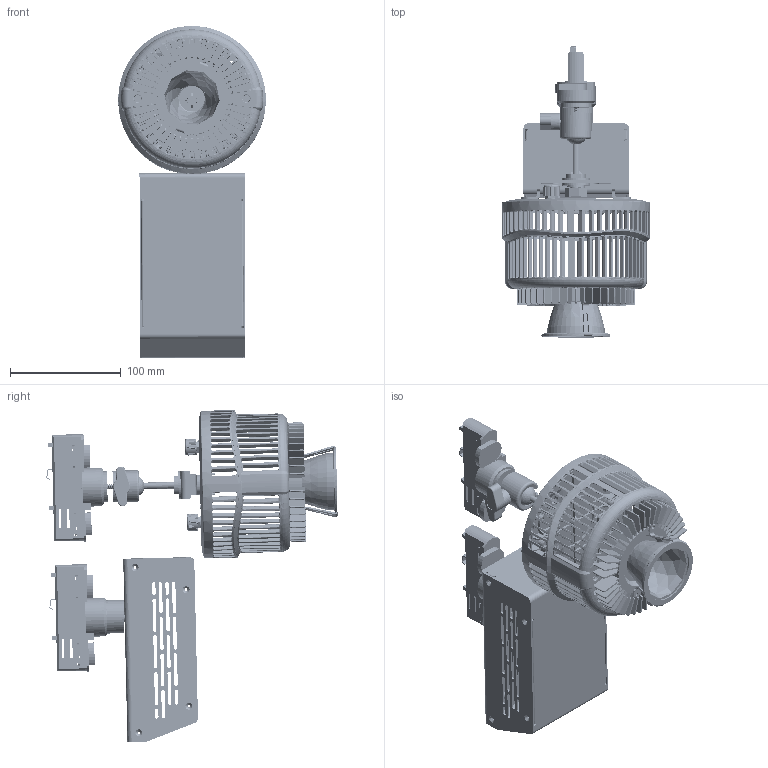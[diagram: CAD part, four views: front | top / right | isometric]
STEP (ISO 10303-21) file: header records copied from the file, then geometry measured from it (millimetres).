
FILE_DESCRIPTION (( 'STEP AP214' ), '1' );
FILE_NAME ('W500N-TEX-PS.STEP', '2024-02-01T22:49:15', ( '' ), ( '' ), 'SwSTEP 2.0', 'SolidWorks 2022', '' );
FILE_SCHEMA (( 'AUTOMOTIVE_DESIGN' ));
Length unit declared in the file: millimetre
Products named in the file (31): 5120539-XXX_A1_Housing, OD=133, ID=121, T=78.1mm, For Reflector, Without Logo___; 5022405-XXX_A1_Wing Knob Screws, M6xL8.0mm_-001; 5120519-XXX_A3_Assembly BOM, Kessil W500 Power Box_TON(US)-PS; 5120522-XXX_A4_Assembly BOM, W360&W500 Light Mounting Type_TG; 5022484-XXX_A1_Retaining Collar, M10xL10 P1.0, D30.0x31.1mm___; 62280-1343006_ _SCREW, PAN HEAD TROX W-THD LOCK, SUS-410, BLACK, M3xL6mm___; 5020893-2010525020_ _Flat Washer, M10, ID10.5 OD25.0, T2 SUS 304___; 5022453-XXX_A1_35D Sink Holder B, 71.2x62.2x31.1(H)mm___; 5060069-XXX_A2_W series Reflector-35, OD=62, H=45mm___; 5120529-XXX_A1_Assembly BOM, W500 Light Engine_Finish; 5120530-XXX_A1_Assembly BOM, W500 Reflector Type_Reflector - 55D-BD; 5020897-2010216520_ _Helical Spring Washer Customized___; 5120540-XXX_A1_Rear Panel, OD=133, T=13.65mm, W-Series_5120531-001 W500; 5022189_A1_Plate, OD=48, ID=23, T=2.0mm___; 5022399_A1_Fix Ball Joint Part for EUTRAC, D=28mm___; W500N-TEX-PS; 5022452-003_A3_Reflector Sink Holder, D108x14.35(H)mm (-004 is White)_-003(Black); 5022424-XXX_A2_250W Power Box Cover (TG&TEX-PS&CLP&TJ TYPE), 165x92x62.5(H)mm___; 5022445-XXX_A1_DC Plug for W Series, D=12mm_-002(Black); 5022431-XXX_A1_Ball Joint Part A, L=23.7mm___; 5022708-XXX_A2_Ball Joint Axis, L=65.8mm___; 5021926-XXX_A2_KNOB, 18T, OD=14.9, ID=6, L=10MM_C1; 62282-5014005_ _Standard Types of Metric Set Screws, M4xL5, Black___; 5022014-XYZ_A2_EUTRAC Multi Adapter_Finissh_2(No Locked); 5020757-002_A2_VR Washer, Kessil A360 Aquarium Light___; 5022693-XXX_A1_Bracket, 98.85x25x17.5, T=2.5mm___; 5021416_A1_Hex Nut, M10xP1.5, T8 SUS___; 5010177-XXX_A2_Assembly BOM, Kessil W500_55D-BD-[TEX]; 5020757-001_A1_VR Nut, Kessil A360 Aquarium Light___; 5022398-XXX_A1_Plug for W Series, 19x10x9.4mm_-002(Black); 5022427-XXX_A4_250W Power Box FRAME (TG&TEX&CLP TYPE), 165x95x64mm___
Assembly tree (36 placements, depth 4):
  W500N-TEX-PS
    5120519-XXX_A3_Assembly BOM, Kessil W500 Power Box_TON(US)-PS
      5022427-XXX_A4_250W Power Box FRAME (TG&TEX&CLP TYPE), 165x95x64mm___
      5022014-XYZ_A2_EUTRAC Multi Adapter_Finissh_2(No Locked)
      5022484-XXX_A1_Retaining Collar, M10xL10 P1.0, D30.0x31.1mm___
      5022424-XXX_A2_250W Power Box Cover (TG&TEX-PS&CLP&TJ TYPE), 165x92x62.5(H)mm___
    5010177-XXX_A2_Assembly BOM, Kessil W500_55D-BD-[TEX]
      5120529-XXX_A1_Assembly BOM, W500 Light Engine_Finish
        5120540-XXX_A1_Rear Panel, OD=133, T=13.65mm, W-Series_5120531-001 W500
        5022398-XXX_A1_Plug for W Series, 19x10x9.4mm_-002(Black)
        5022445-XXX_A1_DC Plug for W Series, D=12mm_-002(Black)
        5020757-002_A2_VR Washer, Kessil A360 Aquarium Light___  x2
        5020757-001_A1_VR Nut, Kessil A360 Aquarium Light___  x2
        5021926-XXX_A2_KNOB, 18T, OD=14.9, ID=6, L=10MM_C1  x2
      5120530-XXX_A1_Assembly BOM, W500 Reflector Type_Reflector - 55D-BD
        5120539-XXX_A1_Housing, OD=133, ID=121, T=78.1mm, For Reflector, Without Logo___
        5022189_A1_Plate, OD=48, ID=23, T=2.0mm___
        62280-1343006_ _SCREW, PAN HEAD TROX W-THD LOCK, SUS-410, BLACK, M3xL6mm___  x2
        5022452-003_A3_Reflector Sink Holder, D108x14.35(H)mm (-004 is White)_-003(Black)
        5022453-XXX_A1_35D Sink Holder B, 71.2x62.2x31.1(H)mm___
        5060069-XXX_A2_W series Reflector-35, OD=62, H=45mm___
      5120522-XXX_A4_Assembly BOM, W360&W500 Light Mounting Type_TG
        5022431-XXX_A1_Ball Joint Part A, L=23.7mm___
        5022708-XXX_A2_Ball Joint Axis, L=65.8mm___
        62282-5014005_ _Standard Types of Metric Set Screws, M4xL5, Black___
        5022405-XXX_A1_Wing Knob Screws, M6xL8.0mm_-001
        5022693-XXX_A1_Bracket, 98.85x25x17.5, T=2.5mm___
        5022014-XYZ_A2_EUTRAC Multi Adapter_Finissh_2(No Locked)
        5022399_A1_Fix Ball Joint Part for EUTRAC, D=28mm___
        5020893-2010525020_ _Flat Washer, M10, ID10.5 OD25.0, T2 SUS 304___  x2
        5020897-2010216520_ _Helical Spring Washer Customized___
        5021416_A1_Hex Nut, M10xP1.5, T8 SUS___
Bounding box: 133 x 262.41 x 299.18 mm (x, y, z)
Volume: 405014.7 mm3; surface area: 393938.3 mm2
Topology: 45 solids, 45 shells, 7241 faces, 19847 edges, 12636 vertices
Faces by surface type: plane 2892, cylinder 2500, bspline 904, cone 498, torus 423, sphere 24
Entity records: 277738 total; most frequent: CARTESIAN_POINT 119182, ORIENTED_EDGE 34374, DIRECTION 28690, EDGE_CURVE 17187, VERTEX_POINT 10905, AXIS2_PLACEMENT_3D 10432, VECTOR 7826, LINE 7826
